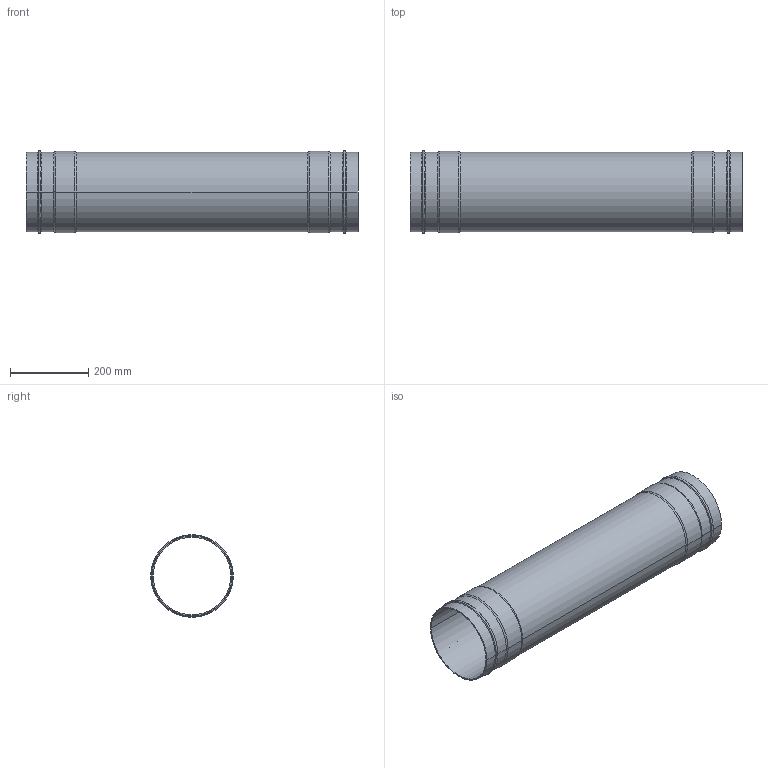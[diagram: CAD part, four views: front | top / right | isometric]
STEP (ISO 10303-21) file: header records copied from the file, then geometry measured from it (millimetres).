
FILE_DESCRIPTION((''),'2;1');
FILE_NAME('2016A05500','2017-05-12T',('Administrator'),(''),'PRO/ENGINEER BY PARAMETRIC TECHNOLOGY CORPORATION, 2009360','PRO/ENGINEER BY PARAMETRIC TECHNOLOGY CORPORATION, 2009360','');
FILE_SCHEMA(('AUTOMOTIVE_DESIGN_CC2 { 1 2 10303 214 -1 1 5 2 }'));
Length unit declared in the file: millimetre
Products named in the file (1): 2016A05500
Bounding box: 850 x 211.48 x 211.48 mm (x, y, z)
Volume: 1777951.2 mm3; surface area: 1086891.9 mm2
Topology: 1 solids, 1 shells, 38 faces, 76 edges, 40 vertices
Faces by surface type: cylinder 16, torus 12, cone 8, plane 2
Entity records: 1239 total; most frequent: DIRECTION 204, CARTESIAN_POINT 154, ORIENTED_EDGE 152, AXIS2_PLACEMENT_3D 90, PRESENTATION_STYLE_ASSIGNMENT 77, STYLED_ITEM 77, CURVE_STYLE 76, EDGE_CURVE 76
